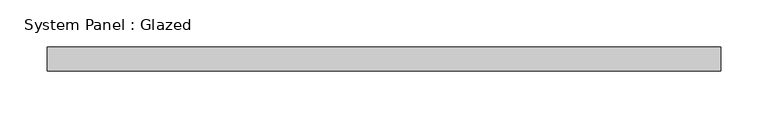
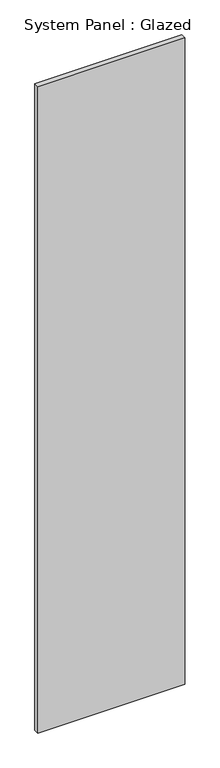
"""IFC4 building model written with IfcOpenShell, lengths in millimetres: plate geometry, System Panel : Glazed."""

from ifc_helpers import new_model, si_unit, origin, origin_with_axes, place, context, project, spatial, polyline, outline, extrude, source, transform, mapped, element, save


def system_panel_glazed_80297cd5(model_context):
    return source(origin(), model_context, "Body", "SweptSolid", [
        extrude(outline(polyline([(354.8909964, 24.5), (-354.8909964, 24.5), (-354.8909964, 49.5), (354.8909964, 49.5), (354.8909964, 24.5)])), origin_with_axes(), (0.0, 0.0, 1.0), 3300.0),
    ])


if __name__ == "__main__":
    model = new_model("IFC4")
    model_context = context("Model", 3, world=origin())
    ifc_project = project(units=[si_unit("LENGTHUNIT", "METRE", prefix="MILLI")], contexts=[model_context])
    site = spatial("IfcSite", under=ifc_project)
    building = spatial("IfcBuilding", under=site)
    placement = place(None, origin())
    system_panel_glazed_shape = system_panel_glazed_80297cd5(model_context)
    element("IfcPlate", 1, ObjectType="System Panel : Glazed", at=placement, inside=building, context=model_context, shape_type="MappedRepresentation", body=[
        mapped(system_panel_glazed_shape, transform((0.0, 0.0, 0.0), x_axis=(1.0, 0.0, 0.0), y_axis=(0.0, 1.0, 0.0), z_axis=(0.0, 0.0, 1.0))),
    ])
    save(model, "model.ifc")
